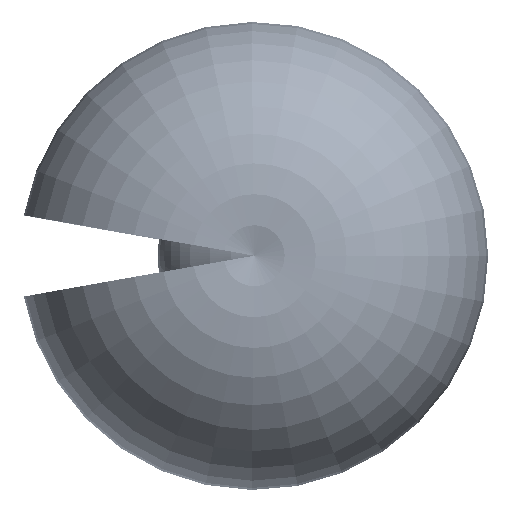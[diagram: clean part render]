
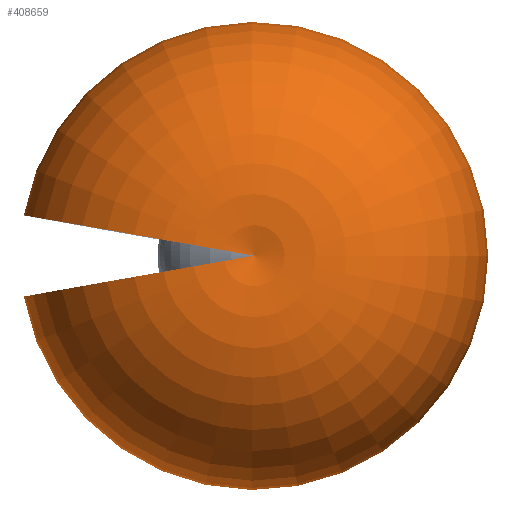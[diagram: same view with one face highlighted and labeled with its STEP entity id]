
A CAD part, top view. The second image highlights one B-rep face of the part: STEP entity #408659.
In plain terms, the highlighted toroidal (fillet/blend) face has major radius 695 mm and minor radius 2409.29 mm.
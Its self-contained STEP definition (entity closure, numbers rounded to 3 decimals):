
#29148 = VERTEX_POINT ( 'NONE', #105843 ) ;
#29835 = DIRECTION ( 'NONE',  ( 0.174, 0.985, 0. ) ) ;
#38288 = EDGE_CURVE ( 'NONE', #477475, #29148, #248808, .T. ) ;
#45254 = TOROIDAL_SURFACE ( 'NONE', #395062, 695., 2409.294 ) ;
#72550 = FACE_OUTER_BOUND ( 'NONE', #373851, .T. ) ;
#87069 = CARTESIAN_POINT ( 'NONE',  ( -1500.95, 263.776, -1733.996 ) ) ;
#100018 = CARTESIAN_POINT ( 'NONE',  ( -5., 0., -1733.996 ) ) ;
#105843 = CARTESIAN_POINT ( 'NONE',  ( -1500.95, -263.776, -1733.996 ) ) ;
#134277 = DIRECTION ( 'NONE',  ( 0., 0., -1. ) ) ;
#148164 = CARTESIAN_POINT ( 'NONE',  ( -5., 0., 530. ) ) ;
#151714 = CARTESIAN_POINT ( 'NONE',  ( -689.441, -120.685, 530. ) ) ;
#152523 = AXIS2_PLACEMENT_3D ( 'NONE', #295296, #29835, #290497 ) ;
#168974 = VERTEX_POINT ( 'NONE', #371353 ) ;
#212152 = DIRECTION ( 'NONE',  ( -1., 0., 0. ) ) ;
#215890 = ORIENTED_EDGE ( 'NONE', *, *, #282940, .T. ) ;
#241868 = EDGE_CURVE ( 'NONE', #29148, #168974, #456358, .T. ) ;
#248808 = CIRCLE ( 'NONE', #419879, 1519.027 ) ;
#253721 = CIRCLE ( 'NONE', #152523, 2409.294 ) ;
#282940 = EDGE_CURVE ( 'NONE', #477475, #168974, #253721, .T. ) ;
#290497 = DIRECTION ( 'NONE',  ( 0., 0., 1. ) ) ;
#295296 = CARTESIAN_POINT ( 'NONE',  ( -689.441, 120.685, 530. ) ) ;
#309822 = DIRECTION ( 'NONE',  ( -0.174, 0.985, 0. ) ) ;
#314782 = ORIENTED_EDGE ( 'NONE', *, *, #241868, .F. ) ;
#371353 = CARTESIAN_POINT ( 'NONE',  ( -5., 0., 2836.875 ) ) ;
#373851 = EDGE_LOOP ( 'NONE', ( #215890, #314782, #460254 ) ) ;
#378466 = AXIS2_PLACEMENT_3D ( 'NONE', #151714, #309822, #382980 ) ;
#382980 = DIRECTION ( 'NONE',  ( 0., 0., 1. ) ) ;
#395062 = AXIS2_PLACEMENT_3D ( 'NONE', #148164, #452431, #459690 ) ;
#408659 = ADVANCED_FACE ( 'NONE', ( #72550 ), #45254, .T. ) ;
#419879 = AXIS2_PLACEMENT_3D ( 'NONE', #100018, #134277, #212152 ) ;
#452431 = DIRECTION ( 'NONE',  ( 0., 0., -1. ) ) ;
#456358 = CIRCLE ( 'NONE', #378466, 2409.294 ) ;
#459690 = DIRECTION ( 'NONE',  ( -1., 0., 0. ) ) ;
#460254 = ORIENTED_EDGE ( 'NONE', *, *, #38288, .F. ) ;
#477475 = VERTEX_POINT ( 'NONE', #87069 ) ;
